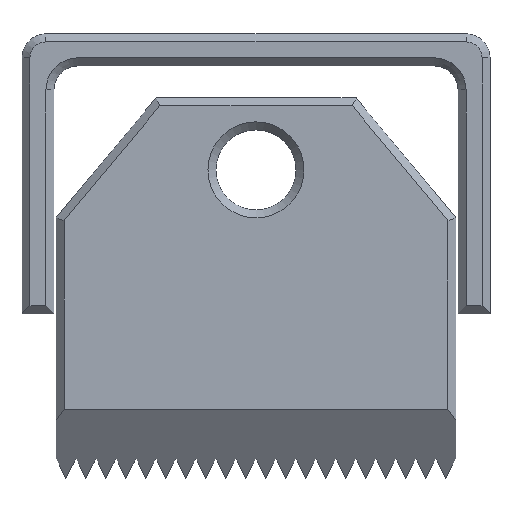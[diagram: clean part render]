
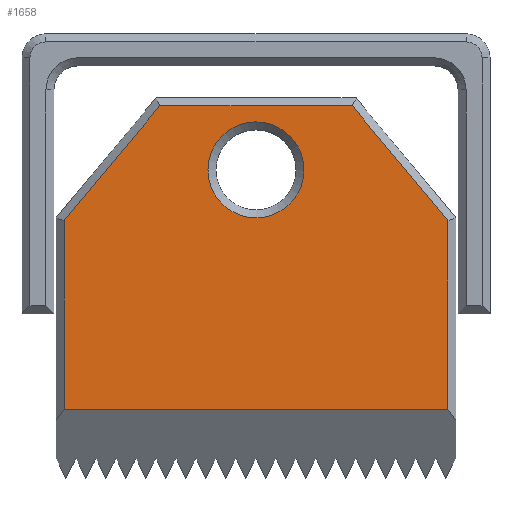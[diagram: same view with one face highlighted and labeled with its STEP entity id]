
A CAD part, top view. The second image highlights one B-rep face of the part: STEP entity #1658.
In plain terms, the highlighted planar face has unit normal (0, 0, 1).
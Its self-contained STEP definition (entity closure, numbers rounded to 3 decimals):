
#17=FACE_BOUND('',#225,.T.);
#25=PLANE('',#1780);
#122=FACE_OUTER_BOUND('',#224,.T.);
#224=EDGE_LOOP('',(#1179,#1180,#1181,#1182,#1183,#1184));
#225=EDGE_LOOP('',(#1185));
#334=LINE('',#2392,#548);
#335=LINE('',#2394,#549);
#336=LINE('',#2396,#550);
#337=LINE('',#2398,#551);
#338=LINE('',#2400,#552);
#339=LINE('',#2401,#553);
#548=VECTOR('',#1923,10.);
#549=VECTOR('',#1924,10.);
#550=VECTOR('',#1925,10.);
#551=VECTOR('',#1926,10.);
#552=VECTOR('',#1927,10.);
#553=VECTOR('',#1928,10.);
#761=CIRCLE('',#1776,6.);
#787=VERTEX_POINT('',#2380);
#790=VERTEX_POINT('',#2390);
#791=VERTEX_POINT('',#2391);
#792=VERTEX_POINT('',#2393);
#793=VERTEX_POINT('',#2395);
#794=VERTEX_POINT('',#2397);
#795=VERTEX_POINT('',#2399);
#930=EDGE_CURVE('',#787,#787,#761,.T.);
#935=EDGE_CURVE('',#790,#791,#334,.T.);
#936=EDGE_CURVE('',#790,#792,#335,.T.);
#937=EDGE_CURVE('',#793,#792,#336,.T.);
#938=EDGE_CURVE('',#794,#793,#337,.T.);
#939=EDGE_CURVE('',#795,#794,#338,.T.);
#940=EDGE_CURVE('',#791,#795,#339,.T.);
#1179=ORIENTED_EDGE('',*,*,#935,.F.);
#1180=ORIENTED_EDGE('',*,*,#936,.T.);
#1181=ORIENTED_EDGE('',*,*,#937,.F.);
#1182=ORIENTED_EDGE('',*,*,#938,.F.);
#1183=ORIENTED_EDGE('',*,*,#939,.F.);
#1184=ORIENTED_EDGE('',*,*,#940,.F.);
#1185=ORIENTED_EDGE('',*,*,#930,.F.);
#1658=ADVANCED_FACE('',(#122,#17),#25,.T.);
#1776=AXIS2_PLACEMENT_3D('',#2381,#1911,#1912);
#1780=AXIS2_PLACEMENT_3D('',#2389,#1921,#1922);
#1911=DIRECTION('center_axis',(0.,0.,1.));
#1912=DIRECTION('ref_axis',(1.,0.,0.));
#1921=DIRECTION('center_axis',(0.,0.,1.));
#1922=DIRECTION('ref_axis',(1.,0.,0.));
#1923=DIRECTION('',(0.,1.,0.));
#1924=DIRECTION('',(1.,0.,0.));
#1925=DIRECTION('',(0.,-1.,0.));
#1926=DIRECTION('',(0.64,-0.768,0.));
#1927=DIRECTION('',(1.,0.,0.));
#1928=DIRECTION('',(0.641,0.768,0.));
#2380=CARTESIAN_POINT('',(-6.006,36.,6.));
#2381=CARTESIAN_POINT('Origin',(-0.006,36.,6.));
#2389=CARTESIAN_POINT('Origin',(0.,21.243,6.));
#2390=CARTESIAN_POINT('',(-24.,6.055,6.));
#2391=CARTESIAN_POINT('',(-24.,29.652,6.));
#2392=CARTESIAN_POINT('',(-24.,25.629,6.));
#2393=CARTESIAN_POINT('',(24.,6.055,6.));
#2394=CARTESIAN_POINT('',(-12.5,6.055,6.));
#2395=CARTESIAN_POINT('',(24.,29.638,6.));
#2396=CARTESIAN_POINT('',(24.,10.621,6.));
#2397=CARTESIAN_POINT('',(12.04,44.,6.));
#2398=CARTESIAN_POINT('',(21.266,32.921,6.));
#2399=CARTESIAN_POINT('',(-12.023,44.,6.));
#2400=CARTESIAN_POINT('',(6.254,44.,6.));
#2401=CARTESIAN_POINT('',(-15.002,40.431,6.));
